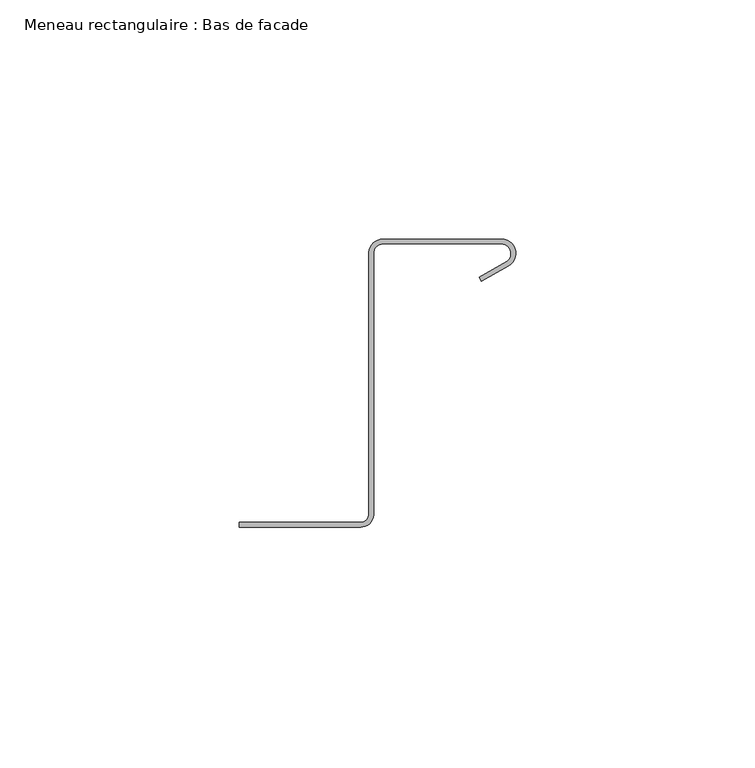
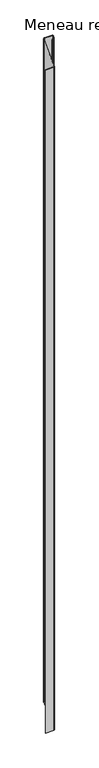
"""IFC4 building model written with IfcOpenShell, lengths in millimetres: member geometry, Meneau rectangulaire : Bas de facade."""

import ifcopenshell
import ifcopenshell.guid

model = None  # the IFC model being written
_history = None  # IfcOwnerHistory: only IFC2X3 demands one
_inside = {}  # id of a spatial element -> (the spatial element, [elements in it])
_under = {}  # id of a project, library or spatial element -> (it, [spatial elements below it])
_declared = {}  # id of a project -> (the project, [libraries it declares])
_typed = {}  # id of a type object -> (the type object, [elements of that type])
_made_of = {}  # id of a material, layer set ... -> (it, [elements and type objects made of it])


def new_model(schema):
    """Start an empty IFC model of exactly this schema.

    Asked for "IFC4X3", IfcOpenShell would pick the latest addendum, in which some entities
    have other attributes; the version numbers below select the first issue.
    IFC2X3 requires an IfcOwnerHistory on every rooted entity: one is made here for all.
    """
    global model, _history
    if schema == "IFC4X3":
        model = ifcopenshell.file(schema_version=(4, 3, 0, 0))
    else:
        model = ifcopenshell.file(schema=schema)
    _inside.clear()
    _under.clear()
    _declared.clear()
    _typed.clear()
    _made_of.clear()
    _history = None
    if model.schema == "IFC2X3":
        org = make("IfcOrganization", Name="unknown")
        user = make(
            "IfcPersonAndOrganization",
            ThePerson=make("IfcPerson", FamilyName="unknown"),
            TheOrganization=org,
        )
        app = make(
            "IfcApplication",
            ApplicationDeveloper=org,
            Version="unknown",
            ApplicationFullName="unknown",
            ApplicationIdentifier="unknown",
        )
        _history = make(
            "IfcOwnerHistory",
            OwningUser=user,
            OwningApplication=app,
            ChangeAction="ADDED",
            CreationDate=0,
        )
    return model


def make(cls, **values):
    """One entity of the class cls with the attributes given. An attribute that is None is left unset."""
    return model.create_entity(
        cls, **{name: value for name, value in values.items() if value is not None}
    )


def rooted(cls, **values):
    """An entity with a GlobalId (a new one), such as an element, a storey or a relation."""
    return make(cls, GlobalId=ifcopenshell.guid.new(), OwnerHistory=_history, **values)


def si_unit(unit_type, name, prefix=None):
    """IfcSIUnit, for example si_unit("LENGTHUNIT", "METRE", prefix="MILLI")."""
    return make("IfcSIUnit", UnitType=unit_type, Prefix=prefix, Name=name)


def assignment(units):
    """IfcUnitAssignment: the units of a project."""
    return None if units is None else make("IfcUnitAssignment", Units=units)


def point(xyz):
    """IfcCartesianPoint."""
    return None if xyz is None else make("IfcCartesianPoint", Coordinates=xyz)


def direction(xyz):
    """IfcDirection."""
    return None if xyz is None else make("IfcDirection", DirectionRatios=xyz)


def frame(location, z_axis=None, x_axis=None):
    """IfcAxis2Placement3D, a coordinate frame: its origin and axes. An axis left out is left unset."""
    return make(
        "IfcAxis2Placement3D",
        Location=point(location),
        Axis=direction(z_axis),
        RefDirection=direction(x_axis),
    )


def origin():
    """The frame at (0, 0, 0) with its axes left unset."""
    return frame((0.0, 0.0, 0.0))


def place(relative_to, where):
    """IfcLocalPlacement: puts the frame where relative to a parent placement (None: the world)."""
    return make(
        "IfcLocalPlacement", PlacementRelTo=relative_to, RelativePlacement=where
    )


def context(
    kind, dimensions, precision=None, world=None, true_north=None, identifier=None
):
    """IfcGeometricRepresentationContext, for example the 3D "Model" context."""
    return make(
        "IfcGeometricRepresentationContext",
        ContextIdentifier=identifier,
        ContextType=kind,
        CoordinateSpaceDimension=dimensions,
        Precision=precision,
        WorldCoordinateSystem=world,
        TrueNorth=true_north,
    )


def project(units=None, contexts=None):
    """IfcProject with its units and contexts."""
    return rooted(
        "IfcProject",
        Name="project",
        RepresentationContexts=contexts,
        UnitsInContext=assignment(units),
    )


def spatial(cls, under=None, at=None, **own):
    """A site, building, storey or space (cls), placed at a placement, below another one or the project."""
    s = rooted(cls, ObjectPlacement=at, **own)
    if under is not None:
        _under.setdefault(under.id(), (under, []))[1].append(s)
    return s


def polyline(points):
    """IfcPolyline through the points."""
    return make("IfcPolyline", Points=[point(p) for p in points])


def ellipse_curve(where, semi_axis1, semi_axis2):
    """IfcEllipse in the frame where."""
    return make(
        "IfcEllipse", Position=where, SemiAxis1=semi_axis1, SemiAxis2=semi_axis2
    )


def shape(context_of_items, identifier, shape_type, items):
    """IfcShapeRepresentation: the items that make up one representation, for example the "Body"."""
    return make(
        "IfcShapeRepresentation",
        ContextOfItems=context_of_items,
        RepresentationIdentifier=identifier,
        RepresentationType=shape_type,
        Items=items,
    )


def source(mapping_origin, context_of_items, identifier, shape_type, items):
    """IfcRepresentationMap: a shape defined once, which mapped items show again and again."""
    return make(
        "IfcRepresentationMap",
        MappingOrigin=mapping_origin,
        MappedRepresentation=shape(context_of_items, identifier, shape_type, items),
    )


def transform(
    local_origin,
    x_axis=None,
    y_axis=None,
    z_axis=None,
    scale=None,
    scale2=None,
    scale3=None,
    uniform=True,
):
    """IfcCartesianTransformationOperator3D, or its non-uniform kind. x_axis, y_axis, z_axis: its Axis1, 2, 3."""
    if uniform:
        return make(
            "IfcCartesianTransformationOperator3D",
            Axis1=direction(x_axis),
            Axis2=direction(y_axis),
            LocalOrigin=point(local_origin),
            Scale=scale,
            Axis3=direction(z_axis),
        )
    return make(
        "IfcCartesianTransformationOperator3DnonUniform",
        Axis1=direction(x_axis),
        Axis2=direction(y_axis),
        LocalOrigin=point(local_origin),
        Scale=scale,
        Axis3=direction(z_axis),
        Scale2=scale2,
        Scale3=scale3,
    )


def mapped(mapping_source, mapping_target):
    """IfcMappedItem: shows the shape of a source again, moved by a transform."""
    return make(
        "IfcMappedItem", MappingSource=mapping_source, MappingTarget=mapping_target
    )


def made_of(thing, what):
    """Note that an element or type object is made of a material, layer set ...; save() writes the relation."""
    if what is not None:
        _made_of.setdefault(what.id(), (what, []))[1].append(thing)
    return thing


def element(
    cls,
    number,
    at=None,
    inside=None,
    cuts=None,
    type_object=None,
    material=None,
    context=None,
    identifier="Body",
    shape_type=None,
    held_by="IfcProductDefinitionShape",
    body=None,
    shapes=None,
    **own,
):
    """One element of the class cls, such as IfcWall. Its Tag is "e" and its number.

    at: its placement. inside: the storey or other place that contains it. cuts: it is an
    opening in that element (IfcRelVoidsElement). A single representation is given by context,
    identifier, shape_type and body (its items); several are given by shapes. held_by: the class
    of the entity that holds the representations. save() writes the other relations.
    """
    e = rooted(cls, Tag="e%d" % number, ObjectPlacement=at, **own)
    if body is not None:
        shapes = [shape(context, identifier, shape_type, body)]
    if shapes is not None:
        e.Representation = make(held_by, Representations=shapes)
    if inside is not None:
        _inside.setdefault(inside.id(), (inside, []))[1].append(e)
    if cuts is not None:
        rooted(
            "IfcRelVoidsElement", RelatingBuildingElement=cuts, RelatedOpeningElement=e
        )
    if type_object is not None:
        _typed.setdefault(type_object.id(), (type_object, []))[1].append(e)
    return made_of(e, material)


def aggregate(whole, parts):
    """IfcRelAggregates: a whole, such as a stair, and the parts it consists of."""
    return rooted("IfcRelAggregates", RelatingObject=whole, RelatedObjects=parts)


def save(model, path):
    """Write the relations noted so far, then the file.

    IfcRelAggregates (storeys below a building ...), IfcRelContainedInSpatialStructure (elements
    in a storey), IfcRelDefinesByType, IfcRelAssociatesMaterial and IfcRelDeclares: one each for
    every whole, place, type object, material and project.
    """
    for whole, parts in _under.values():
        aggregate(whole, parts)
    for where, things in _inside.values():
        rooted(
            "IfcRelContainedInSpatialStructure",
            RelatedElements=things,
            RelatingStructure=where,
        )
    for kind, things in _typed.values():
        rooted("IfcRelDefinesByType", RelatedObjects=things, RelatingType=kind)
    for what, things in _made_of.values():
        rooted("IfcRelAssociatesMaterial", RelatedObjects=things, RelatingMaterial=what)
    for by, libraries in _declared.values():
        rooted("IfcRelDeclares", RelatingContext=by, RelatedDefinitions=libraries)
    model.write(path)


def plane_surface(at):
    """IfcPlane: the flat surface through the origin of the frame at, square to its z axis."""
    return make("IfcPlane", Position=at)


def cylinder_surface(at, radius):
    """IfcCylindricalSurface: all points at the distance radius from the z axis of the frame at."""
    return make("IfcCylindricalSurface", Position=at, Radius=radius)


def revolved_surface(curve, axis_point, axis_direction):
    """IfcSurfaceOfRevolution: the curve turned about the line through axis_point along axis_direction."""
    return make(
        "IfcSurfaceOfRevolution",
        SweptCurve=make("IfcArbitraryOpenProfileDef", ProfileType="CURVE", Curve=curve),
        AxisPosition=make("IfcAxis1Placement", Location=point(axis_point), Axis=direction(axis_direction)),
    )


def advanced_brep(points, edges, surfaces, faces):
    """IfcAdvancedBrep: a solid bounded by faces that lie on surfaces and meet in shared edges.

    An edge is (start, end): straight between two places in points (the first is 0);
    or (start, end, curve); or (start, end, curve, False) where it runs against its curve.
    A face is (place in surfaces, loops), or (place, loops, False) where it looks against
    its surface's normal. A loop lists edges by number (the first is 1), with a minus sign
    where the edge is run from its end to its start. The first loop is the outer one.
    """
    corners = [point(p) for p in points]
    vertices = [make("IfcVertexPoint", VertexGeometry=c) for c in corners]
    made = []
    for start, end, *more in edges:
        made.append(
            make(
                "IfcEdgeCurve",
                EdgeStart=vertices[start],
                EdgeEnd=vertices[end],
                EdgeGeometry=more[0] if more else make("IfcPolyline", Points=[corners[start], corners[end]]),
                SameSense=more[1] if len(more) > 1 else True,
            )
        )
    hull = []
    for where, loops, *sense in faces:
        bounds = []
        for j, loop in enumerate(loops):
            ring = [make("IfcOrientedEdge", EdgeElement=made[abs(k) - 1], Orientation=k > 0) for k in loop]
            bounds.append(
                make(
                    "IfcFaceOuterBound" if j == 0 else "IfcFaceBound",
                    Bound=make("IfcEdgeLoop", EdgeList=ring),
                    Orientation=True,
                )
            )
        hull.append(make("IfcAdvancedFace", Bounds=bounds, FaceSurface=surfaces[where], SameSense=sense[0] if sense else True))
    return make("IfcAdvancedBrep", Outer=make("IfcClosedShell", CfsFaces=hull))


def meneau_rectangulaire_bas_de_facade_72f859a9(model_context):
    return source(origin(), model_context, "Body", "AdvancedBrep", [
        advanced_brep(
        [(-29.7143802, -0.3898824, -0.3898824), (-32.4584179, -2.9588923, -2.9588923), (-32.4584179, -2.9588923, -2202.9588923), (-29.7143802, -0.3898824, -2200.3898824), (-29.7143802, 54.5495817, 54.5495817), (-29.7143802, 54.5495817, -2145.4504183), (-27.735368, 56.2605998, 56.2605998), (-27.735368, 56.2605998, -2143.7394002), (-3.0, 56.2605998, 56.2605998), (-3.0, 56.2605998, -2143.7394002), (-2.0, 52.528549, 52.528549), (-2.0, 52.528549, -2147.471451), (-7.6638061, 49.258549, 49.258549), (-7.6638061, 49.258549, -2150.741451), (-7.1638061, 48.3925235, 48.3925235), (-7.1638061, 48.3925235, -2151.6074765), (-1.5, 51.6625235, 51.6625235), (-1.5, 51.6625235, -2148.3374765), (-3.0, 57.2605998, 57.2605998), (-3.0, 57.2605998, -2142.7394002), (-27.735368, 57.2605998, 57.2605998), (-27.735368, 57.2605998, -2142.7394002), (-30.7239521, 54.522067, 54.522067), (-30.7239521, 54.522067, -2145.477933), (-30.7239521, -0.4415475, -0.4415475), (-30.7239521, -0.4415475, -2200.4415475), (-32.4584179, -1.9588923, -1.9588923), (-32.4584179, -1.9588923, -2201.9588923), (-57.8548383, -1.9588923, -1.9588923), (-57.8548383, -1.9588923, -2201.9588923), (-57.8548383, -2.9588923, -2.9588923), (-57.8548383, -2.9588923, -2202.9588923)],
        [
            (0, 1, ellipse_curve(frame((-32.4584179, -0.2088923, -0.2088923), z_axis=(0.0, 0.7071067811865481, -0.7071067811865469), x_axis=(0.0, 0.7071067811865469, 0.7071067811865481)), 3.8890873, 2.75)),
            (1, 2),
            (2, 3, ellipse_curve(frame((-32.4584179, -0.2088923, -2200.2088923), z_axis=(0.0, -0.707106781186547, 0.707106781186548), x_axis=(0.0, 0.707106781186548, 0.707106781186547)), 3.8890873, 2.75)),
            (3, 0),
            (4, 0),
            (3, 5),
            (5, 4),
            (6, 4, ellipse_curve(frame((-27.735368, 54.2605998, 54.2605998), z_axis=(0.0, -0.7071067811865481, 0.7071067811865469), x_axis=(0.0, -0.7071067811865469, -0.7071067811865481)), 2.8284271, 2.0)),
            (5, 7, ellipse_curve(frame((-27.735368, 54.2605998, -2145.7394002), z_axis=(0.0, 0.707106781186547, -0.707106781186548), x_axis=(0.0, -0.707106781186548, -0.707106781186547)), 2.8284271, 2.0)),
            (7, 6),
            (8, 6),
            (7, 9),
            (9, 8),
            (10, 8, ellipse_curve(frame((-3.0, 54.2605998, 54.2605998), z_axis=(0.0, -0.7071067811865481, 0.7071067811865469), x_axis=(0.0, -0.7071067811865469, -0.7071067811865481)), 2.8284271, 2.0)),
            (9, 11, ellipse_curve(frame((-3.0, 54.2605998, -2145.7394002), z_axis=(0.0, 0.707106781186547, -0.707106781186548), x_axis=(0.0, -0.707106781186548, -0.707106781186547)), 2.8284271, 2.0)),
            (11, 10),
            (12, 10),
            (11, 13),
            (13, 12),
            (14, 12),
            (13, 15),
            (15, 14),
            (16, 14),
            (15, 17),
            (17, 16),
            (18, 16, ellipse_curve(frame((-3.0, 54.2605998, 54.2605998), z_axis=(0.0, 0.7071067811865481, -0.7071067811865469), x_axis=(0.0, 0.7071067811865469, 0.7071067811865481)), 4.2426407, 3.0)),
            (17, 19, ellipse_curve(frame((-3.0, 54.2605998, -2145.7394002), z_axis=(0.0, -0.707106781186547, 0.707106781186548), x_axis=(0.0, 0.707106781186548, 0.707106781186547)), 4.2426407, 3.0)),
            (19, 18),
            (20, 18),
            (19, 21),
            (21, 20),
            (22, 20, ellipse_curve(frame((-27.735368, 54.2605998, 54.2605998), z_axis=(0.0, 0.7071067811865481, -0.7071067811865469), x_axis=(0.0, 0.7071067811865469, 0.7071067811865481)), 4.2426407, 3.0)),
            (21, 23, ellipse_curve(frame((-27.735368, 54.2605998, -2145.7394002), z_axis=(0.0, -0.707106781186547, 0.707106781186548), x_axis=(0.0, 0.707106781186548, 0.707106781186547)), 4.2426407, 3.0)),
            (23, 22),
            (24, 22),
            (23, 25),
            (25, 24),
            (26, 24, ellipse_curve(frame((-32.4584179, -0.2088923, -0.2088923), z_axis=(0.0, -0.7071067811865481, 0.7071067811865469), x_axis=(0.0, -0.7071067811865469, -0.7071067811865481)), 2.4748737, 1.75)),
            (25, 27, ellipse_curve(frame((-32.4584179, -0.2088923, -2200.2088923), z_axis=(0.0, 0.707106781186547, -0.707106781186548), x_axis=(0.0, -0.707106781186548, -0.707106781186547)), 2.4748737, 1.75)),
            (27, 26),
            (28, 26),
            (27, 29),
            (29, 28),
            (30, 28),
            (29, 31),
            (31, 30),
            (1, 30),
            (31, 2),
        ],
        [
            cylinder_surface(frame((-32.4584179, -0.2088923, 0.0), z_axis=(0.0, 0.0, 1.0), x_axis=(0.0, -1.0, 0.0)), 2.75),
            plane_surface(frame((-29.7143802, -0.3898824, 0.0), z_axis=(1.0, 0.0, 0.0), x_axis=(0.0, 0.0, -1.0))),
            revolved_surface(polyline([(-29.727757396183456, 54.434911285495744, -2147.739400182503), (-29.727757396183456, 54.434911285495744, 56.26059980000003)]), (-27.735368, 54.2605998, 0.0), (0.0, 0.0, -1.0000000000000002)),
            plane_surface(frame((-27.735368, 56.2605998, 0.0), z_axis=(0.0, -1.0, 0.0), x_axis=(0.0, 0.0, -1.0))),
            revolved_surface(polyline([(-3.0, 56.2605998, -2147.739400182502), (-3.0, 56.2605998, 56.2605998)]), (-3.0, 54.2605998, 0.0), (0.0, 0.0, -1.0)),
            plane_surface(frame((-2.0, 52.528549, 0.0), z_axis=(-0.500000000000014, 0.8660254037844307, 0.0), x_axis=(0.0, 0.0, -1.0))),
            plane_surface(frame((-7.6638061, 49.258549, 0.0), z_axis=(-0.8660254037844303, -0.5000000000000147, 0.0), x_axis=(0.0, 0.0, -1.0))),
            plane_surface(frame((-7.1638061, 48.3925235, 0.0), z_axis=(0.5000000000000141, -0.8660254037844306, 0.0), x_axis=(0.0, 0.0, -1.0))),
            cylinder_surface(frame((-3.0, 54.2605998, 0.0), z_axis=(0.0, 0.0, 1.0), x_axis=(0.0, 1.0, 0.0)), 3.0),
            plane_surface(frame((-3.0, 57.2605998, 0.0), z_axis=(0.0, 1.0, 0.0), x_axis=(0.0, 0.0, -1.0))),
            cylinder_surface(frame((-27.735368, 54.2605998, 0.0), z_axis=(0.0, 0.0, 1.0000000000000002), x_axis=(-0.9961946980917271, 0.08715574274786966, 0.0)), 3.0),
            plane_surface(frame((-30.7239521, 54.522067, 0.0), z_axis=(-1.0, 0.0, 0.0), x_axis=(0.0, 0.0, -1.0))),
            revolved_surface(polyline([(-32.4584179, -1.9588923, -2201.9588923), (-32.4584179, -1.9588923, 1.5411076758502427)]), (-32.4584179, -0.2088923, 0.0), (0.0, 0.0, -1.0)),
            plane_surface(frame((-32.4584179, -1.9588923, 0.0), z_axis=(0.0, 1.0, 0.0), x_axis=(0.0, 0.0, -1.0))),
            plane_surface(frame((-57.8548383, -1.9588923, 0.0), z_axis=(-1.0, 0.0, 0.0), x_axis=(0.0, 0.0, -1.0))),
            plane_surface(frame((-57.8548383, -2.9588923, 0.0), z_axis=(0.0, -1.0, 0.0), x_axis=(0.0, 0.0, -1.0))),
            plane_surface(frame((304.8, 0.0, 0.0), z_axis=(0.0, -0.7071067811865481, 0.7071067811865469), x_axis=(0.0, -0.7071067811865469, -0.7071067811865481))),
            plane_surface(frame((-304.8, 0.0, -2200.0), z_axis=(0.0, 0.707106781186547, -0.707106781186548), x_axis=(0.0, 0.707106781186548, 0.707106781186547))),
        ],
        [
            (0, [[1, 2, 3, 4]]),
            (1, [[5, -4, 6, 7]]),
            (2, [[8, -7, 9, 10]]),
            (3, [[11, -10, 12, 13]]),
            (4, [[14, -13, 15, 16]]),
            (5, [[17, -16, 18, 19]]),
            (6, [[20, -19, 21, 22]]),
            (7, [[23, -22, 24, 25]]),
            (8, [[26, -25, 27, 28]]),
            (9, [[29, -28, 30, 31]]),
            (10, [[32, -31, 33, 34]]),
            (11, [[35, -34, 36, 37]]),
            (12, [[38, -37, 39, 40]]),
            (13, [[41, -40, 42, 43]]),
            (14, [[44, -43, 45, 46]]),
            (15, [[47, -46, 48, -2]]),
            (16, [[-1, -5, -8, -11, -14, -17, -20, -23, -26, -29, -32, -35, -38, -41, -44, -47]]),
            (17, [[-48, -45, -42, -39, -36, -33, -30, -27, -24, -21, -18, -15, -12, -9, -6, -3]]),
        ],
    ),
    ])


if __name__ == "__main__":
    model = new_model("IFC4")
    model_context = context("Model", 3, world=origin())
    ifc_project = project(units=[si_unit("LENGTHUNIT", "METRE", prefix="MILLI")], contexts=[model_context])
    site = spatial("IfcSite", under=ifc_project)
    building = spatial("IfcBuilding", under=site)
    placement = place(None, origin())
    meneau_rectangulaire_bas_de_facade_shape = meneau_rectangulaire_bas_de_facade_72f859a9(model_context)
    element("IfcMember", 1, ObjectType="Meneau rectangulaire : Bas de facade", at=placement, inside=building, context=model_context, shape_type="MappedRepresentation", body=[
        mapped(meneau_rectangulaire_bas_de_facade_shape, transform((0.0, 0.0, 0.0), x_axis=(1.0, 0.0, 0.0), y_axis=(0.0, 1.0, 0.0), z_axis=(0.0, 0.0, 1.0))),
    ])
    save(model, "model.ifc")
